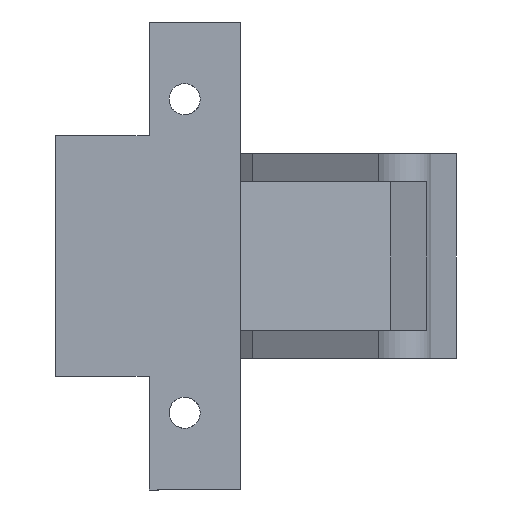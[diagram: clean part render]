
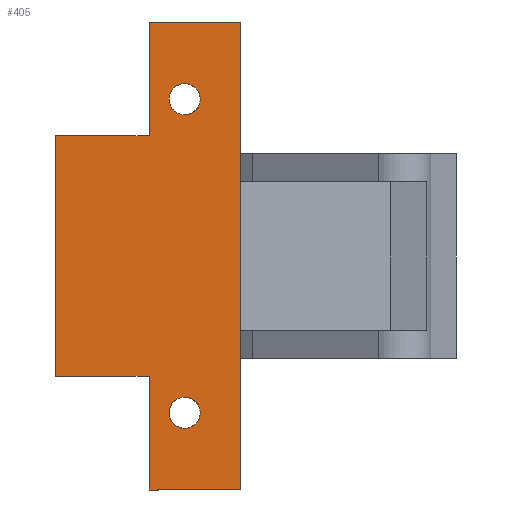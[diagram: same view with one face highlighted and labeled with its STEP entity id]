
A CAD part, front view. The second image highlights one B-rep face of the part: STEP entity #405.
In plain terms, the highlighted planar face has unit normal (0, -1, 0).
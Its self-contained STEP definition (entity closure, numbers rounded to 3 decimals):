
#104 = ORIENTED_EDGE ( 'NONE', *, *, #2017, .T. ) ;
#105 = ORIENTED_EDGE ( 'NONE', *, *, #1943, .T. ) ;
#106 = ORIENTED_EDGE ( 'NONE', *, *, #1990, .F. ) ;
#107 = ORIENTED_EDGE ( 'NONE', *, *, #1940, .T. ) ;
#108 = ORIENTED_EDGE ( 'NONE', *, *, #2002, .T. ) ;
#109 = ORIENTED_EDGE ( 'NONE', *, *, #2014, .T. ) ;
#110 = ORIENTED_EDGE ( 'NONE', *, *, #2007, .F. ) ;
#111 = ORIENTED_EDGE ( 'NONE', *, *, #2011, .F. ) ;
#112 = ORIENTED_EDGE ( 'NONE', *, *, #1960, .F. ) ;
#113 = ORIENTED_EDGE ( 'NONE', *, *, #2015, .F. ) ;
#114 = ORIENTED_EDGE ( 'NONE', *, *, #1947, .F. ) ;
#115 = ORIENTED_EDGE ( 'NONE', *, *, #2013, .F. ) ;
#228 = EDGE_LOOP ( 'NONE', ( #113, #112 ) ) ;
#236 = EDGE_LOOP ( 'NONE', ( #115, #114 ) ) ;
#238 = EDGE_LOOP ( 'NONE', ( #111, #110, #109, #108, #107, #106, #105, #104 ) ) ;
#271 = FACE_BOUND ( 'NONE', #228, .T. ) ;
#286 = FACE_BOUND ( 'NONE', #236, .T. ) ;
#290 = FACE_OUTER_BOUND ( 'NONE', #238, .T. ) ;
#343 = DIRECTION ( 'NONE',  ( 0., 0., 1. ) ) ;
#354 = CARTESIAN_POINT ( 'NONE',  ( 9.5, -11.7, 20.9 ) ) ;
#355 = CARTESIAN_POINT ( 'NONE',  ( 9.5, -11.7, 10.75 ) ) ;
#360 = DIRECTION ( 'NONE',  ( 0., 0., -1. ) ) ;
#361 = DIRECTION ( 'NONE',  ( 0., 0., 1. ) ) ;
#363 = DIRECTION ( 'NONE',  ( 0., -1., 0. ) ) ;
#364 = DIRECTION ( 'NONE',  ( 1., 0., 0. ) ) ;
#367 = DIRECTION ( 'NONE',  ( 0., 0., -1. ) ) ;
#369 = CARTESIAN_POINT ( 'NONE',  ( 1.32, -11.7, 20.9 ) ) ;
#370 = CARTESIAN_POINT ( 'NONE',  ( 9.5, -11.7, -20.9 ) ) ;
#373 = DIRECTION ( 'NONE',  ( 1., 0., 0. ) ) ;
#377 = DIRECTION ( 'NONE',  ( 0., -1., 0. ) ) ;
#405 = ADVANCED_FACE ( 'NONE', ( #286, #271, #290 ), #1852, .F. ) ;
#501 = LINE ( 'NONE', #1006, #507 ) ;
#502 = VECTOR ( 'NONE', #1004, 1000. ) ;
#503 = LINE ( 'NONE', #968, #502 ) ;
#507 = VECTOR ( 'NONE', #1010, 1000. ) ;
#514 = CIRCLE ( 'NONE', #943, 1.39 ) ;
#530 = CIRCLE ( 'NONE', #945, 1.39 ) ;
#584 = LINE ( 'NONE', #1221, #585 ) ;
#585 = VECTOR ( 'NONE', #1222, 1000. ) ;
#595 = VECTOR ( 'NONE', #367, 1000. ) ;
#601 = LINE ( 'NONE', #369, #595 ) ;
#608 = LINE ( 'NONE', #1229, #609 ) ;
#609 = VECTOR ( 'NONE', #1193, 1000. ) ;
#618 = LINE ( 'NONE', #354, #619 ) ;
#619 = VECTOR ( 'NONE', #373, 1000. ) ;
#626 = LINE ( 'NONE', #355, #627 ) ;
#627 = VECTOR ( 'NONE', #360, 1000. ) ;
#631 = CIRCLE ( 'NONE', #948, 1.39 ) ;
#634 = CIRCLE ( 'NONE', #950, 1.39 ) ;
#635 = LINE ( 'NONE', #370, #636 ) ;
#636 = VECTOR ( 'NONE', #364, 1000. ) ;
#895 = AXIS2_PLACEMENT_3D ( 'NONE', #1850, #1856, #1857 ) ;
#943 = AXIS2_PLACEMENT_3D ( 'NONE', #1036, #1029, #1030 ) ;
#945 = AXIS2_PLACEMENT_3D ( 'NONE', #1059, #1062, #1063 ) ;
#948 = AXIS2_PLACEMENT_3D ( 'NONE', #1208, #377, #361 ) ;
#950 = AXIS2_PLACEMENT_3D ( 'NONE', #1232, #363, #343 ) ;
#968 = CARTESIAN_POINT ( 'NONE',  ( -7., -11.7, 10.75 ) ) ;
#972 = CARTESIAN_POINT ( 'NONE',  ( 9.5, -11.7, -20.9 ) ) ;
#975 = CARTESIAN_POINT ( 'NONE',  ( -7., -11.7, 10.75 ) ) ;
#982 = CARTESIAN_POINT ( 'NONE',  ( 4.5, -11.7, 15.39 ) ) ;
#983 = CARTESIAN_POINT ( 'NONE',  ( 4.5, -11.7, 12.61 ) ) ;
#992 = CARTESIAN_POINT ( 'NONE',  ( 4.5, -11.7, -12.61 ) ) ;
#998 = CARTESIAN_POINT ( 'NONE',  ( 1.32, -11.7, 20.9 ) ) ;
#1004 = DIRECTION ( 'NONE',  ( 0., 0., -1. ) ) ;
#1006 = CARTESIAN_POINT ( 'NONE',  ( 1.32, -11.7, 20.9 ) ) ;
#1010 = DIRECTION ( 'NONE',  ( 0., 0., -1. ) ) ;
#1029 = DIRECTION ( 'NONE',  ( 0., -1., 0. ) ) ;
#1030 = DIRECTION ( 'NONE',  ( 0., 0., 1. ) ) ;
#1036 = CARTESIAN_POINT ( 'NONE',  ( 4.5, -11.7, -14. ) ) ;
#1041 = CARTESIAN_POINT ( 'NONE',  ( 4.5, -11.7, -15.39 ) ) ;
#1048 = CARTESIAN_POINT ( 'NONE',  ( -7., -11.7, -10.75 ) ) ;
#1051 = CARTESIAN_POINT ( 'NONE',  ( 1.32, -11.7, -10.75 ) ) ;
#1059 = CARTESIAN_POINT ( 'NONE',  ( 4.5, -11.7, 14. ) ) ;
#1062 = DIRECTION ( 'NONE',  ( 0., -1., 0. ) ) ;
#1063 = DIRECTION ( 'NONE',  ( 0., 0., 1. ) ) ;
#1104 = CARTESIAN_POINT ( 'NONE',  ( 9.5, -11.7, 20.9 ) ) ;
#1127 = CARTESIAN_POINT ( 'NONE',  ( 1.32, -11.7, -20.9 ) ) ;
#1135 = CARTESIAN_POINT ( 'NONE',  ( 1.32, -11.7, 10.75 ) ) ;
#1193 = DIRECTION ( 'NONE',  ( -1., 0., 0. ) ) ;
#1208 = CARTESIAN_POINT ( 'NONE',  ( 4.5, -11.7, -14. ) ) ;
#1221 = CARTESIAN_POINT ( 'NONE',  ( 9.5, -11.7, -10.75 ) ) ;
#1222 = DIRECTION ( 'NONE',  ( -1., 0., 0. ) ) ;
#1229 = CARTESIAN_POINT ( 'NONE',  ( 9.5, -11.7, 10.75 ) ) ;
#1232 = CARTESIAN_POINT ( 'NONE',  ( 4.5, -11.7, 14. ) ) ;
#1623 = VERTEX_POINT ( 'NONE', #1135 ) ;
#1631 = VERTEX_POINT ( 'NONE', #1127 ) ;
#1672 = VERTEX_POINT ( 'NONE', #1104 ) ;
#1675 = VERTEX_POINT ( 'NONE', #972 ) ;
#1678 = VERTEX_POINT ( 'NONE', #975 ) ;
#1685 = VERTEX_POINT ( 'NONE', #982 ) ;
#1686 = VERTEX_POINT ( 'NONE', #983 ) ;
#1695 = VERTEX_POINT ( 'NONE', #992 ) ;
#1705 = VERTEX_POINT ( 'NONE', #998 ) ;
#1850 = CARTESIAN_POINT ( 'NONE',  ( 9.5, -11.7, 10.75 ) ) ;
#1852 = PLANE ( 'NONE',  #895 ) ;
#1856 = DIRECTION ( 'NONE',  ( 0., 1., 0. ) ) ;
#1857 = DIRECTION ( 'NONE',  ( -1., 0., 0. ) ) ;
#1884 = VERTEX_POINT ( 'NONE', #1041 ) ;
#1921 = VERTEX_POINT ( 'NONE', #1048 ) ;
#1923 = VERTEX_POINT ( 'NONE', #1051 ) ;
#1940 = EDGE_CURVE ( 'NONE', #1678, #1921, #503, .T. ) ;
#1943 = EDGE_CURVE ( 'NONE', #1923, #1631, #501, .T. ) ;
#1947 = EDGE_CURVE ( 'NONE', #1884, #1695, #514, .T. ) ;
#1960 = EDGE_CURVE ( 'NONE', #1686, #1685, #530, .T. ) ;
#1990 = EDGE_CURVE ( 'NONE', #1923, #1921, #584, .T. ) ;
#2002 = EDGE_CURVE ( 'NONE', #1623, #1678, #608, .T. ) ;
#2007 = EDGE_CURVE ( 'NONE', #1705, #1672, #618, .T. ) ;
#2011 = EDGE_CURVE ( 'NONE', #1672, #1675, #626, .T. ) ;
#2013 = EDGE_CURVE ( 'NONE', #1695, #1884, #631, .T. ) ;
#2014 = EDGE_CURVE ( 'NONE', #1705, #1623, #601, .T. ) ;
#2015 = EDGE_CURVE ( 'NONE', #1685, #1686, #634, .T. ) ;
#2017 = EDGE_CURVE ( 'NONE', #1631, #1675, #635, .T. ) ;
